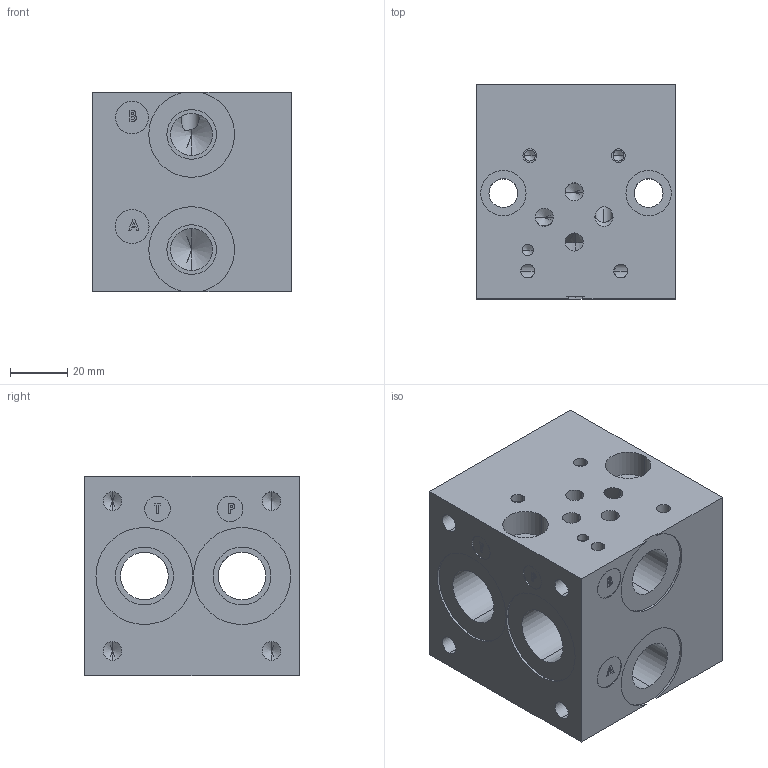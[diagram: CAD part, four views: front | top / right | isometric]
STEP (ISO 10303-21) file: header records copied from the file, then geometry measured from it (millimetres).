
FILE_DESCRIPTION (( 'STEP AP203' ), '1' );
FILE_NAME ('BM-ASP03S2-01-1_Z.STEP', '2015-01-06T15:37:01', ( '' ), ( '' ), 'SwSTEP 2.0', 'SolidWorks 2014', '' );
FILE_SCHEMA (( 'CONFIG_CONTROL_DESIGN' ));
Length unit declared in the file: inch
Products named in the file (1): BM-ASP03S2-01-1_Z
Bounding box: 69.85 x 74.93 x 69.85 mm (x, y, z)
Volume: 291657.3 mm3; surface area: 51302.2 mm2
Topology: 1 solids, 1 shells, 235 faces, 586 edges, 365 vertices
Faces by surface type: cylinder 92, plane 89, cone 33, bspline 21
Entity records: 8360 total; most frequent: CARTESIAN_POINT 2842, ORIENTED_EDGE 1112, DIRECTION 1089, EDGE_CURVE 556, AXIS2_PLACEMENT_3D 388, VERTEX_POINT 365, LINE 313, VECTOR 313
